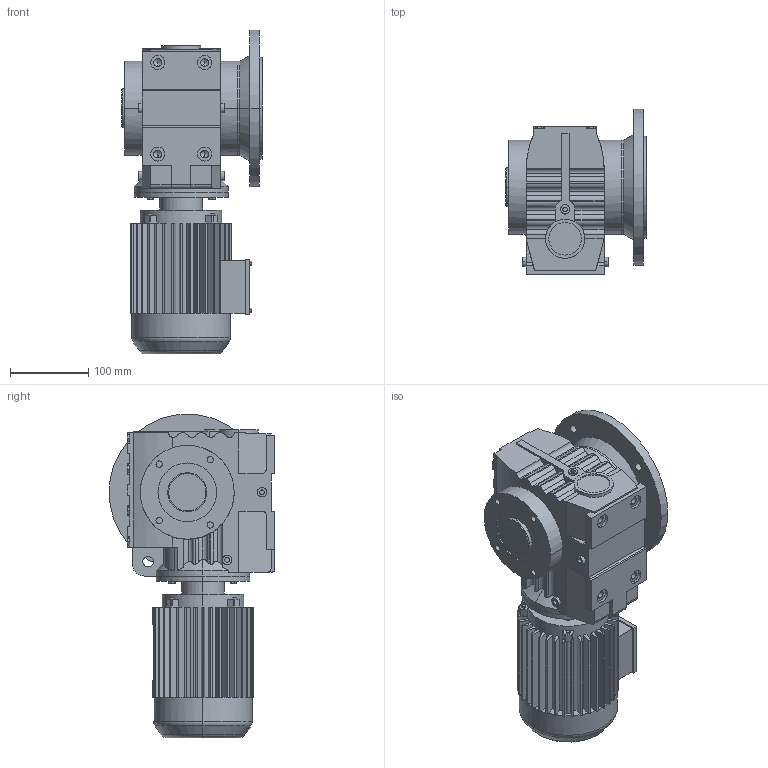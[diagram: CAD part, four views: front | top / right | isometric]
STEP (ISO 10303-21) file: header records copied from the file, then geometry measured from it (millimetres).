
FILE_DESCRIPTION(('Open CASCADE Model'),'2;1');
FILE_NAME('Open CASCADE Shape Model','2021-07-20T11:09:06',('Author'),( 'Open CASCADE'),'Open CASCADE STEP processor 6.3','Open CASCADE 6.3' ,'Unknown');
FILE_SCHEMA(('AUTOMOTIVE_DESIGN_CC2 { 1 2 10303 214 -1 1 5 4 }'));
Length unit declared in the file: millimetre
Products named in the file (5): 1_SAF57-Y63S-30-A; SA47‵97_57.step; 萇儂_120_Y63S.step; す瑩諾陑粣S_57_30.step; 楊擘S_57_200_SAF.step
Assembly tree (4 placements, depth 2):
  1_SAF57-Y63S-30-A
    SA47‵97_57.step
    萇儂_120_Y63S.step
    す瑩諾陑粣S_57_30.step
    楊擘S_57_200_SAF.step
Bounding box: 179.25 x 212 x 414 mm (x, y, z)
Volume: 6077736.6 mm3; surface area: 529614.1 mm2
Topology: 4 solids, 4 shells, 825 faces, 2162 edges, 1398 vertices
Faces by surface type: plane 525, cylinder 277, cone 19, torus 4
Entity records: 60909 total; most frequent: CARTESIAN_POINT 20341, DIRECTION 6882, ORIENTED_EDGE 4308, PCURVE 4308, DEFINITIONAL_REPRESENTATION 4308, LINE 3538, VECTOR 3538, EDGE_CURVE 2154
